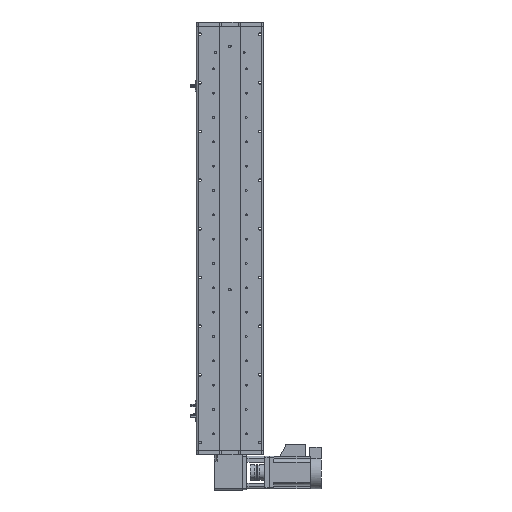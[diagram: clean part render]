
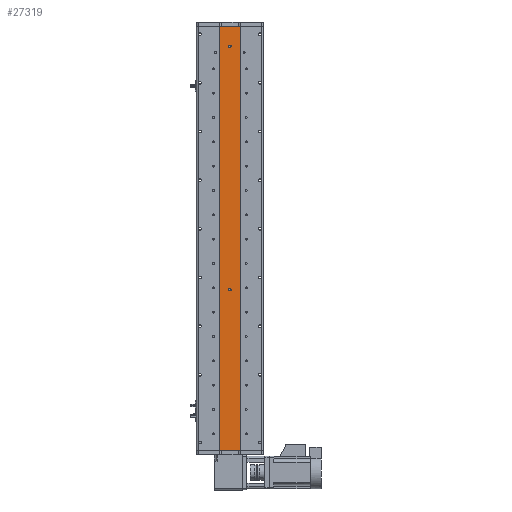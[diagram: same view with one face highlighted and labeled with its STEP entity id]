
A CAD part, front view. The second image highlights one B-rep face of the part: STEP entity #27319.
In plain terms, the highlighted planar face has unit normal (0, -1, 0).
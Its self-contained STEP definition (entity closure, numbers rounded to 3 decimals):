
#908 = DIRECTION ( 'NONE',  ( 1., 0., 0. ) ) ;
#1298 = FACE_BOUND ( 'NONE', #40036, .T. ) ;
#2318 = CARTESIAN_POINT ( 'NONE',  ( 0., 1., -126.5 ) ) ;
#4071 = VECTOR ( 'NONE', #40484, 1000. ) ;
#4947 = DIRECTION ( 'NONE',  ( 0., 0., 1. ) ) ;
#5463 = EDGE_CURVE ( 'NONE', #22616, #29351, #7073, .T. ) ;
#5757 = VECTOR ( 'NONE', #15047, 1000. ) ;
#5933 = VECTOR ( 'NONE', #44595, 1000. ) ;
#6029 = DIRECTION ( 'NONE',  ( 0., 0., -1. ) ) ;
#6141 = LINE ( 'NONE', #41647, #44445 ) ;
#6362 = VERTEX_POINT ( 'NONE', #32156 ) ;
#7057 = CIRCLE ( 'NONE', #44067, 3. ) ;
#7073 = LINE ( 'NONE', #45391, #5933 ) ;
#8946 = CARTESIAN_POINT ( 'NONE',  ( -25., 1., -523.5 ) ) ;
#9180 = CIRCLE ( 'NONE', #34308, 3. ) ;
#10787 = EDGE_CURVE ( 'NONE', #22616, #47644, #6141, .T. ) ;
#11010 = VERTEX_POINT ( 'NONE', #31981 ) ;
#12006 = VERTEX_POINT ( 'NONE', #23599 ) ;
#13258 = EDGE_LOOP ( 'NONE', ( #36933, #35262, #34744, #34608 ) ) ;
#15047 = DIRECTION ( 'NONE',  ( 1., 0., 0. ) ) ;
#15197 = CARTESIAN_POINT ( 'NONE',  ( 0., 1., 473.5 ) ) ;
#15897 = DIRECTION ( 'NONE',  ( 0., 1., 0. ) ) ;
#17657 = DIRECTION ( 'NONE',  ( 0., -1., 0. ) ) ;
#17978 = CIRCLE ( 'NONE', #28145, 3. ) ;
#18286 = CARTESIAN_POINT ( 'NONE',  ( 25., 1., 523.5 ) ) ;
#18923 = DIRECTION ( 'NONE',  ( 0., 0., -1. ) ) ;
#20954 = CARTESIAN_POINT ( 'NONE',  ( 0., 1., -129.5 ) ) ;
#21983 = CARTESIAN_POINT ( 'NONE',  ( 0., 1., -126.5 ) ) ;
#22404 = VERTEX_POINT ( 'NONE', #20954 ) ;
#22616 = VERTEX_POINT ( 'NONE', #36614 ) ;
#23599 = CARTESIAN_POINT ( 'NONE',  ( 0., 1., -123.5 ) ) ;
#24552 = AXIS2_PLACEMENT_3D ( 'NONE', #45644, #15897, #4947 ) ;
#25599 = LINE ( 'NONE', #37309, #5757 ) ;
#25694 = CARTESIAN_POINT ( 'NONE',  ( 0., 1., 470.5 ) ) ;
#25725 = DIRECTION ( 'NONE',  ( 0., 0., -1. ) ) ;
#27252 = EDGE_LOOP ( 'NONE', ( #39517, #36710 ) ) ;
#27266 = PLANE ( 'NONE',  #24552 ) ;
#27319 = ADVANCED_FACE ( 'NONE', ( #40802, #1298, #31022 ), #27266, .F. ) ;
#27340 = ORIENTED_EDGE ( 'NONE', *, *, #48113, .F. ) ;
#28145 = AXIS2_PLACEMENT_3D ( 'NONE', #2318, #28328, #6029 ) ;
#28328 = DIRECTION ( 'NONE',  ( 0., -1., 0. ) ) ;
#29351 = VERTEX_POINT ( 'NONE', #8946 ) ;
#31022 = FACE_OUTER_BOUND ( 'NONE', #13258, .T. ) ;
#31670 = VERTEX_POINT ( 'NONE', #25694 ) ;
#31981 = CARTESIAN_POINT ( 'NONE',  ( 25., 1., -523.5 ) ) ;
#32156 = CARTESIAN_POINT ( 'NONE',  ( 0., 1., 476.5 ) ) ;
#32300 = EDGE_CURVE ( 'NONE', #29351, #11010, #25599, .T. ) ;
#32311 = AXIS2_PLACEMENT_3D ( 'NONE', #21983, #47827, #25725 ) ;
#32617 = EDGE_CURVE ( 'NONE', #22404, #12006, #17978, .T. ) ;
#34308 = AXIS2_PLACEMENT_3D ( 'NONE', #39841, #17657, #43541 ) ;
#34411 = CIRCLE ( 'NONE', #32311, 3. ) ;
#34608 = ORIENTED_EDGE ( 'NONE', *, *, #5463, .T. ) ;
#34744 = ORIENTED_EDGE ( 'NONE', *, *, #10787, .F. ) ;
#34946 = LINE ( 'NONE', #18286, #4071 ) ;
#35262 = ORIENTED_EDGE ( 'NONE', *, *, #43882, .F. ) ;
#35496 = ORIENTED_EDGE ( 'NONE', *, *, #32617, .F. ) ;
#36614 = CARTESIAN_POINT ( 'NONE',  ( -25., 1., 523.5 ) ) ;
#36710 = ORIENTED_EDGE ( 'NONE', *, *, #42216, .F. ) ;
#36933 = ORIENTED_EDGE ( 'NONE', *, *, #32300, .T. ) ;
#37131 = EDGE_CURVE ( 'NONE', #31670, #6362, #9180, .T. ) ;
#37309 = CARTESIAN_POINT ( 'NONE',  ( 25., 1., -523.5 ) ) ;
#38014 = CARTESIAN_POINT ( 'NONE',  ( 25., 1., 523.5 ) ) ;
#39517 = ORIENTED_EDGE ( 'NONE', *, *, #37131, .F. ) ;
#39841 = CARTESIAN_POINT ( 'NONE',  ( 0., 1., 473.5 ) ) ;
#40036 = EDGE_LOOP ( 'NONE', ( #35496, #27340 ) ) ;
#40484 = DIRECTION ( 'NONE',  ( 0., 0., -1. ) ) ;
#40802 = FACE_BOUND ( 'NONE', #27252, .T. ) ;
#41094 = DIRECTION ( 'NONE',  ( 0., -1., 0. ) ) ;
#41647 = CARTESIAN_POINT ( 'NONE',  ( 25., 1., 523.5 ) ) ;
#42216 = EDGE_CURVE ( 'NONE', #6362, #31670, #7057, .T. ) ;
#43541 = DIRECTION ( 'NONE',  ( 0., 0., -1. ) ) ;
#43882 = EDGE_CURVE ( 'NONE', #47644, #11010, #34946, .T. ) ;
#44067 = AXIS2_PLACEMENT_3D ( 'NONE', #15197, #41094, #18923 ) ;
#44445 = VECTOR ( 'NONE', #908, 1000. ) ;
#44595 = DIRECTION ( 'NONE',  ( 0., 0., -1. ) ) ;
#45391 = CARTESIAN_POINT ( 'NONE',  ( -25., 1., 523.5 ) ) ;
#45644 = CARTESIAN_POINT ( 'NONE',  ( 25., 1., 523.5 ) ) ;
#47644 = VERTEX_POINT ( 'NONE', #38014 ) ;
#47827 = DIRECTION ( 'NONE',  ( 0., -1., 0. ) ) ;
#48113 = EDGE_CURVE ( 'NONE', #12006, #22404, #34411, .T. ) ;
